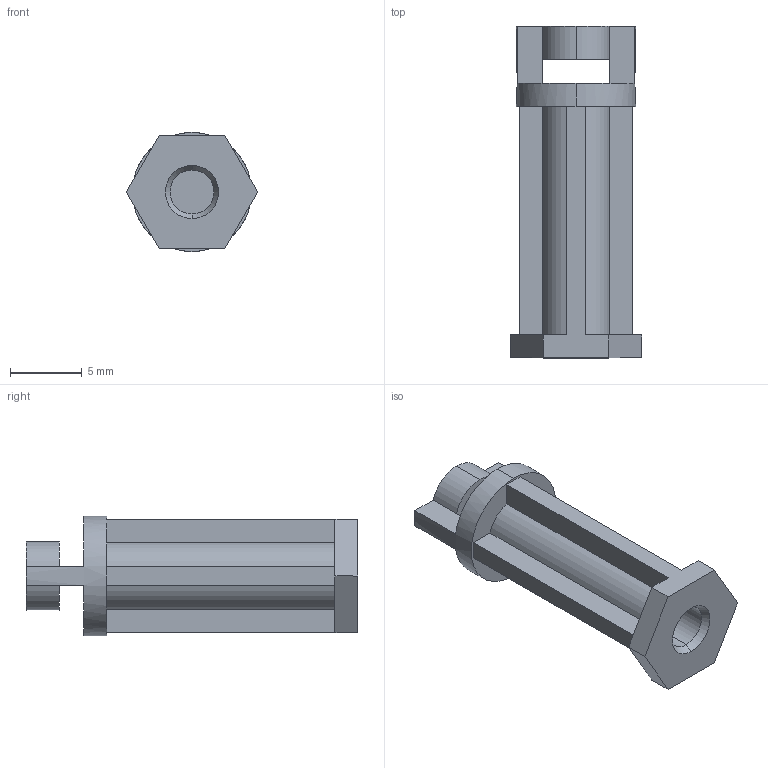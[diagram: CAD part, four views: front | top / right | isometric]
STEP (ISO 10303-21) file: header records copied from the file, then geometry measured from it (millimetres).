
FILE_DESCRIPTION (( 'STEP AP203' ), '1' );
FILE_NAME ('10035726.step', '2023-06-05T15:47:05', ( '' ), ( '' ), 'SwSTEP 2.0', 'SolidWorks 2021', '' );
FILE_SCHEMA (( 'CONFIG_CONTROL_DESIGN' ));
Length unit declared in the file: millimetre
Products named in the file (1): 10035726
Bounding box: 9.12 x 23.1 x 8.3 mm (x, y, z)
Volume: 592.4 mm3; surface area: 878.9 mm2
Topology: 1 solids, 1 shells, 43 faces, 117 edges, 76 vertices
Faces by surface type: plane 28, cylinder 13, cone 2
Entity records: 1436 total; most frequent: DIRECTION 237, CARTESIAN_POINT 237, ORIENTED_EDGE 234, EDGE_CURVE 117, VECTOR 85, LINE 85, AXIS2_PLACEMENT_3D 76, VERTEX_POINT 76
